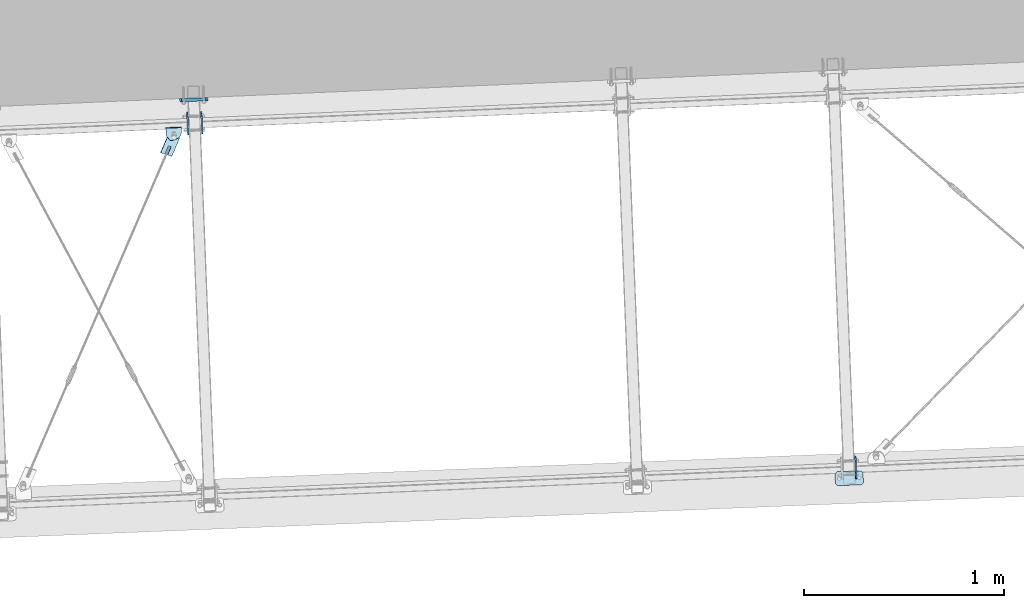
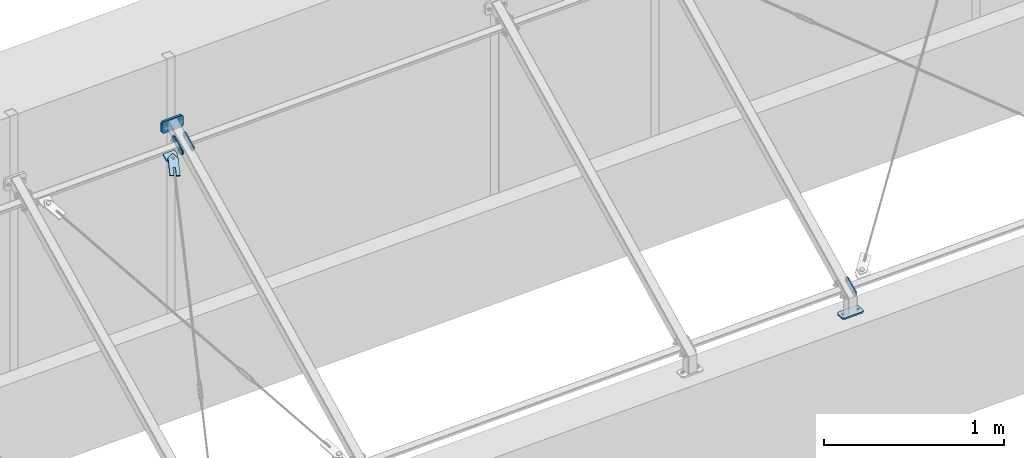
# One storey, part 62 of 288: 7 plates, 37 openings.
"""IFC2X3 building model written with IfcOpenShell, lengths in millimetres."""

from ifc_helpers import new_model, entity, si_unit, converted_unit, point, frame, frame_2d, origin, origin_with_axes, origin_2d_with_axis, place, context, project, spatial, polyline, circle_curve, line_curve, trimmed, segment, composite_curve, circle, outline, extrude, material, layer, layer_set, element, save


model = new_model("IFC2X3")

# Units and contexts
model_context = context("Model", 3, precision=1e-09, world=origin_with_axes())
ifc_project = project(units=[si_unit("LENGTHUNIT", "METRE", prefix="MILLI"), si_unit("AREAUNIT", "SQUARE_METRE"), si_unit("VOLUMEUNIT", "CUBIC_METRE"), converted_unit("PLANEANGLEUNIT", "DEGREE", entity("IfcPlaneAngleMeasure", 0.01745329), si_unit("PLANEANGLEUNIT", "RADIAN"), dimensions=[0, 0, 0, 0, 0, 0, 0])], contexts=[model_context])

# Site, building, storey
site_placement = place(None, origin_with_axes())
site = spatial("IfcSite", under=ifc_project, at=site_placement, Name="Remont ?wietlik?w nad MC w NCPP w Opolu", CompositionType="ELEMENT")
building_placement = place(site_placement, origin_with_axes())
building = spatial("IfcBuilding", under=site, at=building_placement, Name="Konstrukcja 1", CompositionType="ELEMENT")
storey_placement = place(building_placement, origin_with_axes())
storey = spatial("IfcBuildingStorey", under=building, at=storey_placement, Name="Default Storey", CompositionType="ELEMENT", Elevation=0.0)

# Plate, openings
ifc_material = material(Name="S235")
ifc_layer_1 = layer(ifc_material, 8.0)
ifc_layer_set_1 = layer_set([ifc_layer_1], Name="S235")
plate_1_placement = place(None, frame((6699.594263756, 13812.046518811, 92.097498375), z_axis=(-0.999102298, -0.042361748, 0.000284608), x_axis=(0.021561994, -0.502733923, 0.864172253)))
plate_1 = element("IfcPlate", 1, at=plate_1_placement, inside=storey, material=ifc_layer_set_1, Name="-", ObjectType="-", context=model_context, shape_type="SweptSolid", body=[
    extrude(outline(polyline([(0.0, 0.0), (40.0, 0.0), (40.0, 120.0), (0.0, 120.0), (0.0, 0.0)])), origin_with_axes(), (0.0, 0.0, 1.0), 8.0),
])
opening_1_placement = place(plate_1_placement, frame((0.0, 0.0, -0.01), z_axis=(0.0, 0.0, 1.0), x_axis=(1.0, 0.0, 0.0)))
element("IfcOpeningElement", 2, at=opening_1_placement, cuts=plate_1, ObjectType="Opening", context=model_context, shape_type="SweptSolid", body=[
    extrude(outline(composite_curve([segment(trimmed(line_curve((0.0, 0.0), (1.0, 0.0), 10.0), [point((0.0, 0.0))], [point((10.0, 0.0))], True, "CARTESIAN"), True, "CONTINUOUS"), segment(trimmed(circle_curve(frame_2d((10.0, 10.0), x_axis=(-1.0, 0.0)), 10.0), [point((10.0, 0.0))], [point((0.0, 10.0))], False, "CARTESIAN"), True, "CONTINUOUS"), segment(trimmed(line_curve((0.0, 10.0), (0.0, -1.0), 10.0), [point((0.0, 10.0))], [point((0.0, 0.0))], True, "CARTESIAN"), True, "CONTINUOUS")], self_intersect=False)), origin(), (0.0, 0.0, 1.0), 8.02),
])
opening_2_placement = place(plate_1_placement, frame((0.0, 0.0, -0.01), z_axis=(0.0, 0.0, 1.0), x_axis=(1.0, 0.0, 0.0)))
element("IfcOpeningElement", 3, at=opening_2_placement, cuts=plate_1, ObjectType="Opening", context=model_context, shape_type="SweptSolid", body=[
    extrude(outline(composite_curve([segment(trimmed(line_curve((40.0, 0.0), (0.0, 1.0), 10.0), [point((40.0, 0.0))], [point((40.0, 10.0))], True, "CARTESIAN"), True, "CONTINUOUS"), segment(trimmed(circle_curve(frame_2d((30.0, 10.0), x_axis=(-1.0, 0.0)), 10.0), [point((40.0, 10.0))], [point((30.0, 0.0))], False, "CARTESIAN"), True, "CONTINUOUS"), segment(trimmed(line_curve((30.0, 0.0), (1.0, 0.0), 10.0), [point((30.0, 0.0))], [point((40.0, 0.0))], True, "CARTESIAN"), True, "CONTINUOUS")], self_intersect=False)), origin(), (0.0, 0.0, 1.0), 8.02),
])
opening_3_placement = place(plate_1_placement, frame((0.0, 0.0, -0.01), z_axis=(0.0, 0.0, 1.0), x_axis=(1.0, 0.0, 0.0)))
element("IfcOpeningElement", 4, at=opening_3_placement, cuts=plate_1, ObjectType="Opening", context=model_context, shape_type="SweptSolid", body=[
    extrude(outline(composite_curve([segment(trimmed(line_curve((40.0, 120.0), (-1.0, 0.0), 10.0), [point((40.0, 120.0))], [point((30.0, 120.0))], True, "CARTESIAN"), True, "CONTINUOUS"), segment(trimmed(circle_curve(frame_2d((30.0, 110.0), x_axis=(-1.0, 0.0)), 10.0), [point((30.0, 120.0))], [point((40.0, 110.0))], False, "CARTESIAN"), True, "CONTINUOUS"), segment(trimmed(line_curve((40.0, 110.0), (0.0, 1.0), 10.0), [point((40.0, 110.0))], [point((40.0, 120.0))], True, "CARTESIAN"), True, "CONTINUOUS")], self_intersect=False)), origin(), (0.0, 0.0, 1.0), 8.02),
])
opening_4_placement = place(plate_1_placement, frame((0.0, 0.0, -0.01), z_axis=(0.0, 0.0, 1.0), x_axis=(1.0, 0.0, 0.0)))
element("IfcOpeningElement", 5, at=opening_4_placement, cuts=plate_1, ObjectType="Opening", context=model_context, shape_type="SweptSolid", body=[
    extrude(outline(composite_curve([segment(trimmed(line_curve((0.0, 120.0), (0.0, -1.0), 10.0), [point((0.0, 120.0))], [point((0.0, 110.0))], True, "CARTESIAN"), True, "CONTINUOUS"), segment(trimmed(circle_curve(frame_2d((10.0, 110.0), x_axis=(-1.0, 0.0)), 10.0), [point((0.0, 110.0))], [point((10.0, 120.0))], False, "CARTESIAN"), True, "CONTINUOUS"), segment(trimmed(line_curve((10.0, 120.0), (-1.0, 0.0), 10.0), [point((10.0, 120.0))], [point((0.0, 120.0))], True, "CARTESIAN"), True, "CONTINUOUS")], self_intersect=False)), origin(), (0.0, 0.0, 1.0), 8.02),
])
opening_5_placement = place(plate_1_placement, frame((12.999, 100.0, 8.5), z_axis=(0.0, 0.0, 1.0), x_axis=(1.0, 0.0, 0.0)))
element("IfcOpeningElement", 6, at=opening_5_placement, cuts=plate_1, ObjectType="Opening", context=model_context, shape_type="SweptSolid", body=[
    extrude(circle(Radius=7.001, at=frame_2d((7.001, 0.0), x_axis=(1.0, 0.0))), origin(), (0.0, 0.0, -1.0), 9.0),
])
opening_6_placement = place(plate_1_placement, frame((12.999, 20.0, 8.5), z_axis=(0.0, 0.0, 1.0), x_axis=(1.0, 0.0, 0.0)))
element("IfcOpeningElement", 7, at=opening_6_placement, cuts=plate_1, ObjectType="Opening", context=model_context, shape_type="SweptSolid", body=[
    extrude(circle(Radius=7.001, at=frame_2d((7.001, 0.0), x_axis=(1.0, 0.0))), origin(), (0.0, 0.0, -1.0), 9.0),
])

plate_2_placement = place(None, frame((3436.806448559, 15531.661191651, 1176.143390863), z_axis=(-0.999102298, -0.042361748, 0.000284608), x_axis=(0.021561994, -0.502733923, 0.864172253)))
plate_2 = element("IfcPlate", 8, at=plate_2_placement, inside=storey, material=ifc_layer_set_1, Name="-", ObjectType="-", context=model_context, shape_type="SweptSolid", body=[
    extrude(outline(polyline([(0.0, 0.0), (40.0, 0.0), (40.0, 120.0), (0.0, 120.0), (0.0, 0.0)])), origin_with_axes(), (0.0, 0.0, 1.0), 8.0),
])
opening_7_placement = place(plate_2_placement, frame((0.0, 0.0, -0.01), z_axis=(0.0, 0.0, 1.0), x_axis=(1.0, 0.0, 0.0)))
element("IfcOpeningElement", 9, at=opening_7_placement, cuts=plate_2, ObjectType="Opening", context=model_context, shape_type="SweptSolid", body=[
    extrude(outline(composite_curve([segment(trimmed(line_curve((0.0, 0.0), (1.0, 0.0), 10.0), [point((0.0, 0.0))], [point((10.0, 0.0))], True, "CARTESIAN"), True, "CONTINUOUS"), segment(trimmed(circle_curve(frame_2d((10.0, 10.0), x_axis=(-1.0, 0.0)), 10.0), [point((10.0, 0.0))], [point((0.0, 10.0))], False, "CARTESIAN"), True, "CONTINUOUS"), segment(trimmed(line_curve((0.0, 10.0), (0.0, -1.0), 10.0), [point((0.0, 10.0))], [point((0.0, 0.0))], True, "CARTESIAN"), True, "CONTINUOUS")], self_intersect=False)), origin(), (0.0, 0.0, 1.0), 8.02),
])
opening_8_placement = place(plate_2_placement, frame((0.0, 0.0, -0.01), z_axis=(0.0, 0.0, 1.0), x_axis=(1.0, 0.0, 0.0)))
element("IfcOpeningElement", 10, at=opening_8_placement, cuts=plate_2, ObjectType="Opening", context=model_context, shape_type="SweptSolid", body=[
    extrude(outline(composite_curve([segment(trimmed(line_curve((40.0, 0.0), (0.0, 1.0), 10.0), [point((40.0, 0.0))], [point((40.0, 10.0))], True, "CARTESIAN"), True, "CONTINUOUS"), segment(trimmed(circle_curve(frame_2d((30.0, 10.0), x_axis=(-1.0, 0.0)), 10.0), [point((40.0, 10.0))], [point((30.0, 0.0))], False, "CARTESIAN"), True, "CONTINUOUS"), segment(trimmed(line_curve((30.0, 0.0), (1.0, 0.0), 10.0), [point((30.0, 0.0))], [point((40.0, 0.0))], True, "CARTESIAN"), True, "CONTINUOUS")], self_intersect=False)), origin(), (0.0, 0.0, 1.0), 8.02),
])
opening_9_placement = place(plate_2_placement, frame((0.0, 0.0, -0.01), z_axis=(0.0, 0.0, 1.0), x_axis=(1.0, 0.0, 0.0)))
element("IfcOpeningElement", 11, at=opening_9_placement, cuts=plate_2, ObjectType="Opening", context=model_context, shape_type="SweptSolid", body=[
    extrude(outline(composite_curve([segment(trimmed(line_curve((40.0, 120.0), (-1.0, 0.0), 10.0), [point((40.0, 120.0))], [point((30.0, 120.0))], True, "CARTESIAN"), True, "CONTINUOUS"), segment(trimmed(circle_curve(frame_2d((30.0, 110.0), x_axis=(-1.0, 0.0)), 10.0), [point((30.0, 120.0))], [point((40.0, 110.0))], False, "CARTESIAN"), True, "CONTINUOUS"), segment(trimmed(line_curve((40.0, 110.0), (0.0, 1.0), 10.0), [point((40.0, 110.0))], [point((40.0, 120.0))], True, "CARTESIAN"), True, "CONTINUOUS")], self_intersect=False)), origin(), (0.0, 0.0, 1.0), 8.02),
])
opening_10_placement = place(plate_2_placement, frame((0.0, 0.0, -0.01), z_axis=(0.0, 0.0, 1.0), x_axis=(1.0, 0.0, 0.0)))
element("IfcOpeningElement", 12, at=opening_10_placement, cuts=plate_2, ObjectType="Opening", context=model_context, shape_type="SweptSolid", body=[
    extrude(outline(composite_curve([segment(trimmed(line_curve((0.0, 120.0), (0.0, -1.0), 10.0), [point((0.0, 120.0))], [point((0.0, 110.0))], True, "CARTESIAN"), True, "CONTINUOUS"), segment(trimmed(circle_curve(frame_2d((10.0, 110.0), x_axis=(-1.0, 0.0)), 10.0), [point((0.0, 110.0))], [point((10.0, 120.0))], False, "CARTESIAN"), True, "CONTINUOUS"), segment(trimmed(line_curve((10.0, 120.0), (-1.0, 0.0), 10.0), [point((10.0, 120.0))], [point((0.0, 120.0))], True, "CARTESIAN"), True, "CONTINUOUS")], self_intersect=False)), origin(), (0.0, 0.0, 1.0), 8.02),
])
opening_11_placement = place(plate_2_placement, frame((12.999, 100.0, 8.5), z_axis=(0.0, 0.0, 1.0), x_axis=(1.0, 0.0, 0.0)))
element("IfcOpeningElement", 13, at=opening_11_placement, cuts=plate_2, ObjectType="Opening", context=model_context, shape_type="SweptSolid", body=[
    extrude(circle(Radius=7.001, at=frame_2d((7.001, 0.0), x_axis=(1.0, 0.0))), origin(), (0.0, 0.0, -1.0), 9.0),
])
opening_12_placement = place(plate_2_placement, frame((12.999, 20.0, 8.5), z_axis=(0.0, 0.0, 1.0), x_axis=(1.0, 0.0, 0.0)))
element("IfcOpeningElement", 14, at=opening_12_placement, cuts=plate_2, ObjectType="Opening", context=model_context, shape_type="SweptSolid", body=[
    extrude(circle(Radius=7.001, at=frame_2d((7.001, 0.0), x_axis=(1.0, 0.0))), origin(), (0.0, 0.0, -1.0), 9.0),
])

plate_3_placement = place(None, frame((3366.869287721, 15528.695869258, 1176.163313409), z_axis=(-0.999102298, -0.042361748, 0.000284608), x_axis=(0.021561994, -0.502733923, 0.864172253)))
plate_3 = element("IfcPlate", 15, at=plate_3_placement, inside=storey, material=ifc_layer_set_1, Name="-", ObjectType="-", context=model_context, shape_type="SweptSolid", body=[
    extrude(outline(polyline([(0.0, 0.0), (40.0, 0.0), (40.0, 120.0), (0.0, 120.0), (0.0, 0.0)])), origin_with_axes(), (0.0, 0.0, 1.0), 8.0),
])
opening_13_placement = place(plate_3_placement, frame((0.0, 0.0, -0.01), z_axis=(0.0, 0.0, 1.0), x_axis=(1.0, 0.0, 0.0)))
element("IfcOpeningElement", 16, at=opening_13_placement, cuts=plate_3, ObjectType="Opening", context=model_context, shape_type="SweptSolid", body=[
    extrude(outline(composite_curve([segment(trimmed(line_curve((40.0, 0.0), (0.0, 1.0), 10.0), [point((40.0, 0.0))], [point((40.0, 10.0))], True, "CARTESIAN"), True, "CONTINUOUS"), segment(trimmed(circle_curve(frame_2d((30.0, 10.0), x_axis=(-1.0, 0.0)), 10.0), [point((40.0, 10.0))], [point((30.0, 0.0))], False, "CARTESIAN"), True, "CONTINUOUS"), segment(trimmed(line_curve((30.0, 0.0), (1.0, 0.0), 10.0), [point((30.0, 0.0))], [point((40.0, 0.0))], True, "CARTESIAN"), True, "CONTINUOUS")], self_intersect=False)), origin(), (0.0, 0.0, 1.0), 8.02),
])
opening_14_placement = place(plate_3_placement, frame((0.0, 0.0, -0.01), z_axis=(0.0, 0.0, 1.0), x_axis=(1.0, 0.0, 0.0)))
element("IfcOpeningElement", 17, at=opening_14_placement, cuts=plate_3, ObjectType="Opening", context=model_context, shape_type="SweptSolid", body=[
    extrude(outline(composite_curve([segment(trimmed(line_curve((0.0, 0.0), (1.0, 0.0), 10.0), [point((0.0, 0.0))], [point((10.0, 0.0))], True, "CARTESIAN"), True, "CONTINUOUS"), segment(trimmed(circle_curve(frame_2d((10.0, 10.0), x_axis=(-1.0, 0.0)), 10.0), [point((10.0, 0.0))], [point((0.0, 10.0))], False, "CARTESIAN"), True, "CONTINUOUS"), segment(trimmed(line_curve((0.0, 10.0), (0.0, -1.0), 10.0), [point((0.0, 10.0))], [point((0.0, 0.0))], True, "CARTESIAN"), True, "CONTINUOUS")], self_intersect=False)), origin(), (0.0, 0.0, 1.0), 8.02),
])
opening_15_placement = place(plate_3_placement, frame((0.0, 0.0, -0.01), z_axis=(0.0, 0.0, 1.0), x_axis=(1.0, 0.0, 0.0)))
element("IfcOpeningElement", 18, at=opening_15_placement, cuts=plate_3, ObjectType="Opening", context=model_context, shape_type="SweptSolid", body=[
    extrude(outline(composite_curve([segment(trimmed(line_curve((40.0, 120.0), (-1.0, 0.0), 10.0), [point((40.0, 120.0))], [point((30.0, 120.0))], True, "CARTESIAN"), True, "CONTINUOUS"), segment(trimmed(circle_curve(frame_2d((30.0, 110.0), x_axis=(-1.0, 0.0)), 10.0), [point((30.0, 120.0))], [point((40.0, 110.0))], False, "CARTESIAN"), True, "CONTINUOUS"), segment(trimmed(line_curve((40.0, 110.0), (0.0, 1.0), 10.0), [point((40.0, 110.0))], [point((40.0, 120.0))], True, "CARTESIAN"), True, "CONTINUOUS")], self_intersect=False)), origin(), (0.0, 0.0, 1.0), 8.02),
])
opening_16_placement = place(plate_3_placement, frame((0.0, 0.0, -0.01), z_axis=(0.0, 0.0, 1.0), x_axis=(1.0, 0.0, 0.0)))
element("IfcOpeningElement", 19, at=opening_16_placement, cuts=plate_3, ObjectType="Opening", context=model_context, shape_type="SweptSolid", body=[
    extrude(outline(composite_curve([segment(trimmed(line_curve((0.0, 120.0), (0.0, -1.0), 10.0), [point((0.0, 120.0))], [point((0.0, 110.0))], True, "CARTESIAN"), True, "CONTINUOUS"), segment(trimmed(circle_curve(frame_2d((10.0, 110.0), x_axis=(-1.0, 0.0)), 10.0), [point((0.0, 110.0))], [point((10.0, 120.0))], False, "CARTESIAN"), True, "CONTINUOUS"), segment(trimmed(line_curve((10.0, 120.0), (-1.0, 0.0), 10.0), [point((10.0, 120.0))], [point((0.0, 120.0))], True, "CARTESIAN"), True, "CONTINUOUS")], self_intersect=False)), origin(), (0.0, 0.0, 1.0), 8.02),
])
opening_17_placement = place(plate_3_placement, frame((12.999, 100.0, 8.5), z_axis=(0.0, 0.0, 1.0), x_axis=(1.0, 0.0, 0.0)))
element("IfcOpeningElement", 20, at=opening_17_placement, cuts=plate_3, ObjectType="Opening", context=model_context, shape_type="SweptSolid", body=[
    extrude(circle(Radius=7.001, at=frame_2d((7.001, 0.0), x_axis=(1.0, 0.0))), origin(), (0.0, 0.0, -1.0), 9.0),
])
opening_18_placement = place(plate_3_placement, frame((12.999, 20.0, 8.5), z_axis=(0.0, 0.0, 1.0), x_axis=(1.0, 0.0, 0.0)))
element("IfcOpeningElement", 21, at=opening_18_placement, cuts=plate_3, ObjectType="Opening", context=model_context, shape_type="SweptSolid", body=[
    extrude(circle(Radius=7.001, at=frame_2d((7.001, 0.0), x_axis=(1.0, 0.0))), origin(), (0.0, 0.0, -1.0), 9.0),
])

ifc_layer_2 = layer(ifc_material, 10.0)
ifc_layer_set_2 = layer_set([ifc_layer_2], Name="S235")
plate_4_placement = place(None, frame((6729.121885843, 13838.195794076, 10.000000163), z_axis=(0.0, 0.0, -1.0), x_axis=(0.039392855, -0.9992238, 0.0)))
plate_4 = element("IfcPlate", 22, at=plate_4_placement, inside=storey, material=ifc_layer_set_2, Name="Baseplate", ObjectType="Baseplate", context=model_context, shape_type="SweptSolid", body=[
    extrude(outline(polyline([(0.0, 0.0), (70.0, 0.0), (70.0, 140.0), (0.0, 140.0), (0.0, 0.0)])), origin_with_axes(), (0.0, 0.0, 1.0), 10.0),
])
opening_19_placement = place(plate_4_placement, frame((0.0, 0.0, -0.01), z_axis=(0.0, 0.0, 1.0), x_axis=(1.0, 0.0, 0.0)))
element("IfcOpeningElement", 23, at=opening_19_placement, cuts=plate_4, ObjectType="Opening", context=model_context, shape_type="SweptSolid", body=[
    extrude(outline(composite_curve([segment(trimmed(line_curve((0.0, 140.0), (0.0, -1.0), 10.0), [point((0.0, 140.0))], [point((0.0, 130.0))], True, "CARTESIAN"), True, "CONTINUOUS"), segment(trimmed(circle_curve(frame_2d((10.0, 130.0), x_axis=(-1.0, 0.0)), 10.0), [point((0.0, 130.0))], [point((10.0, 140.0))], False, "CARTESIAN"), True, "CONTINUOUS"), segment(trimmed(line_curve((10.0, 140.0), (-1.0, 0.0), 10.0), [point((10.0, 140.0))], [point((0.0, 140.0))], True, "CARTESIAN"), True, "CONTINUOUS")], self_intersect=False)), origin(), (0.0, 0.0, 1.0), 10.02),
])
opening_20_placement = place(plate_4_placement, frame((0.0, 0.0, -0.01), z_axis=(0.0, 0.0, 1.0), x_axis=(1.0, 0.0, 0.0)))
element("IfcOpeningElement", 24, at=opening_20_placement, cuts=plate_4, ObjectType="Opening", context=model_context, shape_type="SweptSolid", body=[
    extrude(outline(composite_curve([segment(trimmed(line_curve((70.0, 140.0), (-1.0, 0.0), 10.0), [point((70.0, 140.0))], [point((60.0, 140.0))], True, "CARTESIAN"), True, "CONTINUOUS"), segment(trimmed(circle_curve(frame_2d((60.0, 130.0), x_axis=(-1.0, 0.0)), 10.0), [point((60.0, 140.0))], [point((70.0, 130.0))], False, "CARTESIAN"), True, "CONTINUOUS"), segment(trimmed(line_curve((70.0, 130.0), (0.0, 1.0), 10.0), [point((70.0, 130.0))], [point((70.0, 140.0))], True, "CARTESIAN"), True, "CONTINUOUS")], self_intersect=False)), origin(), (0.0, 0.0, 1.0), 10.02),
])
opening_21_placement = place(plate_4_placement, frame((0.0, 0.0, -0.01), z_axis=(0.0, 0.0, 1.0), x_axis=(1.0, 0.0, 0.0)))
element("IfcOpeningElement", 25, at=opening_21_placement, cuts=plate_4, ObjectType="Opening", context=model_context, shape_type="SweptSolid", body=[
    extrude(outline(composite_curve([segment(trimmed(line_curve((0.0, 0.0), (1.0, 0.0), 10.0), [point((0.0, 0.0))], [point((10.0, 0.0))], True, "CARTESIAN"), True, "CONTINUOUS"), segment(trimmed(circle_curve(frame_2d((10.0, 10.0), x_axis=(-1.0, 0.0)), 10.0), [point((10.0, 0.0))], [point((0.0, 10.0))], False, "CARTESIAN"), True, "CONTINUOUS"), segment(trimmed(line_curve((0.0, 10.0), (0.0, -1.0), 10.0), [point((0.0, 10.0))], [point((0.0, 0.0))], True, "CARTESIAN"), True, "CONTINUOUS")], self_intersect=False)), origin(), (0.0, 0.0, 1.0), 10.02),
])
opening_22_placement = place(plate_4_placement, frame((0.0, 0.0, -0.01), z_axis=(0.0, 0.0, 1.0), x_axis=(1.0, 0.0, 0.0)))
element("IfcOpeningElement", 26, at=opening_22_placement, cuts=plate_4, ObjectType="Opening", context=model_context, shape_type="SweptSolid", body=[
    extrude(outline(composite_curve([segment(trimmed(line_curve((70.0, 0.0), (0.0, 1.0), 10.0), [point((70.0, 0.0))], [point((70.0, 10.0))], True, "CARTESIAN"), True, "CONTINUOUS"), segment(trimmed(circle_curve(frame_2d((60.0, 10.0), x_axis=(-1.0, 0.0)), 10.0), [point((70.0, 10.0))], [point((60.0, 0.0))], False, "CARTESIAN"), True, "CONTINUOUS"), segment(trimmed(line_curve((60.0, 0.0), (1.0, 0.0), 10.0), [point((60.0, 0.0))], [point((70.0, 0.0))], True, "CARTESIAN"), True, "CONTINUOUS")], self_intersect=False)), origin(), (0.0, 0.0, 1.0), 10.02),
])
opening_23_placement = place(plate_4_placement, frame((35.0, 20.0, 10.5), z_axis=(0.0, 0.0, -1.0), x_axis=(1.0, 0.0, 0.0)))
element("IfcOpeningElement", 27, at=opening_23_placement, cuts=plate_4, ObjectType="Opening", context=model_context, shape_type="SweptSolid", body=[
    extrude(circle(Radius=6.001, at=origin_2d_with_axis()), origin(), (0.0, 0.0, 1.0), 11.0),
])
opening_24_placement = place(plate_4_placement, frame((35.0, 120.0, 10.5), z_axis=(0.0, 0.0, -1.0), x_axis=(1.0, 0.0, 0.0)))
element("IfcOpeningElement", 28, at=opening_24_placement, cuts=plate_4, ObjectType="Opening", context=model_context, shape_type="SweptSolid", body=[
    extrude(circle(Radius=6.001, at=origin_2d_with_axis()), origin(), (0.0, 0.0, 1.0), 11.0),
])

ifc_layer_3 = layer(ifc_material, 16.0)
ifc_layer_set_3 = layer_set([ifc_layer_3], Name="S235")
plate_5_placement = place(None, frame((3461.388178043, 15683.042077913, 1327.0470985), z_axis=(-0.039393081, 0.999223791, 0.0), x_axis=(0.0, 0.0, -1.0)))
plate_5 = element("IfcPlate", 29, at=plate_5_placement, inside=storey, material=ifc_layer_set_3, Name="Baseplate", ObjectType="Baseplate", context=model_context, shape_type="SweptSolid", body=[
    extrude(outline(polyline([(0.0, 0.0), (79.481321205, 0.0), (79.481321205, 140.0), (0.0, 140.0), (0.0, 0.0)])), origin_with_axes(), (0.0, 0.0, 1.0), 16.0),
])
opening_25_placement = place(plate_5_placement, frame((0.0, 0.0, -0.01), z_axis=(0.0, 0.0, 1.0), x_axis=(1.0, 0.0, 0.0)))
element("IfcOpeningElement", 30, at=opening_25_placement, cuts=plate_5, ObjectType="Opening", context=model_context, shape_type="SweptSolid", body=[
    extrude(outline(composite_curve([segment(trimmed(line_curve((79.481321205, 0.0), (0.0, 1.0), 10.0), [point((79.481321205, 0.0))], [point((79.481321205, 10.0))], True, "CARTESIAN"), True, "CONTINUOUS"), segment(trimmed(circle_curve(frame_2d((69.481321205, 10.0), x_axis=(-1.0, 0.0)), 10.0), [point((79.481321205, 10.0))], [point((69.481321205, 0.0))], False, "CARTESIAN"), True, "CONTINUOUS"), segment(trimmed(line_curve((69.481321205, 0.0), (1.0, 0.0), 10.0), [point((69.481321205, 0.0))], [point((79.481321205, 0.0))], True, "CARTESIAN"), True, "CONTINUOUS")], self_intersect=False)), origin(), (0.0, 0.0, 1.0), 16.02),
])
opening_26_placement = place(plate_5_placement, frame((0.0, 0.0, -0.01), z_axis=(0.0, 0.0, 1.0), x_axis=(1.0, 0.0, 0.0)))
element("IfcOpeningElement", 31, at=opening_26_placement, cuts=plate_5, ObjectType="Opening", context=model_context, shape_type="SweptSolid", body=[
    extrude(outline(composite_curve([segment(trimmed(line_curve((0.0, 0.0), (1.0, 0.0), 10.0), [point((0.0, 0.0))], [point((10.0, 0.0))], True, "CARTESIAN"), True, "CONTINUOUS"), segment(trimmed(circle_curve(frame_2d((10.0, 10.0), x_axis=(-1.0, 0.0)), 10.0), [point((10.0, 0.0))], [point((0.0, 10.0))], False, "CARTESIAN"), True, "CONTINUOUS"), segment(trimmed(line_curve((0.0, 10.0), (0.0, -1.0), 10.0), [point((0.0, 10.0))], [point((0.0, 0.0))], True, "CARTESIAN"), True, "CONTINUOUS")], self_intersect=False)), origin(), (0.0, 0.0, 1.0), 16.02),
])
opening_27_placement = place(plate_5_placement, frame((0.0, 0.0, -0.01), z_axis=(0.0, 0.0, 1.0), x_axis=(1.0, 0.0, 0.0)))
element("IfcOpeningElement", 32, at=opening_27_placement, cuts=plate_5, ObjectType="Opening", context=model_context, shape_type="SweptSolid", body=[
    extrude(outline(composite_curve([segment(trimmed(line_curve((0.0, 140.0), (0.0, -1.0), 10.0), [point((0.0, 140.0))], [point((0.0, 130.0))], True, "CARTESIAN"), True, "CONTINUOUS"), segment(trimmed(circle_curve(frame_2d((10.0, 130.0), x_axis=(-1.0, 0.0)), 10.0), [point((0.0, 130.0))], [point((10.0, 140.0))], False, "CARTESIAN"), True, "CONTINUOUS"), segment(trimmed(line_curve((10.0, 140.0), (-1.0, 0.0), 10.0), [point((10.0, 140.0))], [point((0.0, 140.0))], True, "CARTESIAN"), True, "CONTINUOUS")], self_intersect=False)), origin(), (0.0, 0.0, 1.0), 16.02),
])
opening_28_placement = place(plate_5_placement, frame((0.0, 0.0, -0.01), z_axis=(0.0, 0.0, 1.0), x_axis=(1.0, 0.0, 0.0)))
element("IfcOpeningElement", 33, at=opening_28_placement, cuts=plate_5, ObjectType="Opening", context=model_context, shape_type="SweptSolid", body=[
    extrude(outline(composite_curve([segment(trimmed(line_curve((79.481321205, 140.0), (-1.0, 0.0), 10.0), [point((79.481321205, 140.0))], [point((69.481321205, 140.0))], True, "CARTESIAN"), True, "CONTINUOUS"), segment(trimmed(circle_curve(frame_2d((69.481321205, 130.0), x_axis=(-1.0, 0.0)), 10.0), [point((69.481321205, 140.0))], [point((79.481321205, 130.0))], False, "CARTESIAN"), True, "CONTINUOUS"), segment(trimmed(line_curve((79.481321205, 130.0), (0.0, 1.0), 10.0), [point((79.481321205, 130.0))], [point((79.481321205, 140.0))], True, "CARTESIAN"), True, "CONTINUOUS")], self_intersect=False)), origin(), (0.0, 0.0, 1.0), 16.02),
])
opening_29_placement = place(plate_5_placement, frame((39.740660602, 20.0, 16.5), z_axis=(0.0, 0.0, -1.0), x_axis=(1.0, 0.0, 0.0)))
element("IfcOpeningElement", 34, at=opening_29_placement, cuts=plate_5, ObjectType="Opening", context=model_context, shape_type="SweptSolid", body=[
    extrude(circle(Radius=6.001, at=origin_2d_with_axis()), origin(), (0.0, 0.0, 1.0), 17.0),
])
opening_30_placement = place(plate_5_placement, frame((39.740660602, 120.0, 16.5), z_axis=(0.0, 0.0, -1.0), x_axis=(1.0, 0.0, 0.0)))
element("IfcOpeningElement", 35, at=opening_30_placement, cuts=plate_5, ObjectType="Opening", context=model_context, shape_type="SweptSolid", body=[
    extrude(circle(Radius=6.001, at=origin_2d_with_axis()), origin(), (0.0, 0.0, 1.0), 17.0),
])

plate_6_placement = place(None, frame((3281.939345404, 15405.969503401, 1143.72843626), z_axis=(-0.021594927, 0.503513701, -0.863717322), x_axis=(-0.936472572, 0.292319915, 0.19382515)))
plate_6 = element("IfcPlate", 36, at=plate_6_placement, inside=storey, material=ifc_layer_set_1, Name="Tab_Plate#2", ObjectType="Tab_Plate#2", context=model_context, shape_type="SweptSolid", body=[
    extrude(outline(polyline([(0.0, 0.0), (60.0, 0.0), (60.0, 140.0), (0.0, 140.0), (0.0, 0.0)])), origin_with_axes(), (0.0, 0.0, 1.0), 8.0),
])
opening_31_placement = place(plate_6_placement, frame((0.0, 0.0, -0.01), z_axis=(0.0, 0.0, 1.0), x_axis=(1.0, 0.0, 0.0)))
element("IfcOpeningElement", 37, at=opening_31_placement, cuts=plate_6, ObjectType="Opening", context=model_context, shape_type="SweptSolid", body=[
    extrude(outline(composite_curve([segment(trimmed(line_curve((60.0, 140.0), (-1.0, 0.0), 30.0), [point((60.0, 140.0))], [point((30.0, 140.0))], True, "CARTESIAN"), True, "CONTINUOUS"), segment(trimmed(circle_curve(frame_2d((30.0, 110.0), x_axis=(-1.0, 0.0)), 30.0), [point((30.0, 140.0))], [point((60.0, 110.0))], False, "CARTESIAN"), True, "CONTINUOUS"), segment(trimmed(line_curve((60.0, 110.0), (0.0, 1.0), 30.0), [point((60.0, 110.0))], [point((60.0, 140.0))], True, "CARTESIAN"), True, "CONTINUOUS")], self_intersect=False)), origin(), (0.0, 0.0, 1.0), 8.02),
])
opening_32_placement = place(plate_6_placement, frame((0.0, 0.0, -0.01), z_axis=(0.0, 0.0, 1.0), x_axis=(1.0, 0.0, 0.0)))
element("IfcOpeningElement", 38, at=opening_32_placement, cuts=plate_6, ObjectType="Opening", context=model_context, shape_type="SweptSolid", body=[
    extrude(outline(composite_curve([segment(trimmed(line_curve((0.0, 140.0), (0.0, -1.0), 30.0), [point((0.0, 140.0))], [point((0.0, 110.0))], True, "CARTESIAN"), True, "CONTINUOUS"), segment(trimmed(circle_curve(frame_2d((30.0, 110.0), x_axis=(-1.0, 0.0)), 30.0), [point((0.0, 110.0))], [point((30.0, 140.0))], False, "CARTESIAN"), True, "CONTINUOUS"), segment(trimmed(line_curve((30.0, 140.0), (-1.0, 0.0), 30.0), [point((30.0, 140.0))], [point((0.0, 140.0))], True, "CARTESIAN"), True, "CONTINUOUS")], self_intersect=False)), origin(), (0.0, 0.0, 1.0), 8.02),
])
opening_33_placement = place(plate_6_placement, frame((0.0, 0.0, 8.1), z_axis=(0.0, 0.0, -1.0), x_axis=(-0.923086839, 0.384591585, 0.0)))
element("IfcOpeningElement", 39, at=opening_33_placement, cuts=plate_6, ObjectType="Opening", context=model_context, shape_type="SweptSolid", body=[
    extrude(outline(polyline([(-1.61551879, 55.923573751), (-14.540580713, 61.308625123), (-34.15552073, 14.229350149), (-21.230458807, 8.844298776), (-1.61551879, 55.923573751)])), origin(), (0.0, 0.0, 1.0), 8.2),
])
opening_34_placement = place(plate_6_placement, frame((30.0, 110.0, 8.5), z_axis=(0.0, 0.0, -1.0), x_axis=(0.0, -1.0, 0.0)))
element("IfcOpeningElement", 40, at=opening_34_placement, cuts=plate_6, ObjectType="Opening", context=model_context, shape_type="SweptSolid", body=[
    extrude(circle(Radius=9.001, at=origin_2d_with_axis()), origin(), (0.0, 0.0, 1.0), 9.0),
])

plate_7_placement = place(None, frame((3253.41150361, 15496.607575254, 1178.755599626), z_axis=(0.021594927, -0.503513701, 0.863717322), x_axis=(0.936472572, -0.292319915, -0.19382515)))
plate_7 = element("IfcPlate", 41, at=plate_7_placement, inside=storey, material=ifc_layer_set_1, Name="Gusset#2", ObjectType="Gusset#2", context=model_context, shape_type="SweptSolid", body=[
    extrude(outline(polyline([(0.0, 0.0), (60.0, 0.0), (60.0, 60.0), (48.512657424, 87.615542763), (-23.913558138, 57.488133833), (0.0, 0.0)])), origin_with_axes(), (0.0, 0.0, 1.0), 8.0),
])
opening_35_placement = place(plate_7_placement, frame((30.0, 30.0, -0.5), z_axis=(0.0, 0.0, 1.0), x_axis=(0.0, -1.0, 0.0)))
element("IfcOpeningElement", 42, at=opening_35_placement, cuts=plate_7, ObjectType="Opening", context=model_context, shape_type="SweptSolid", body=[
    extrude(circle(Radius=9.001, at=origin_2d_with_axis()), origin(), (0.0, 0.0, 1.0), 9.0),
])
opening_36_placement = place(plate_7_placement, frame((0.0, 0.0, -0.01), z_axis=(0.0, 0.0, 1.0), x_axis=(1.0, 0.0, 0.0)))
element("IfcOpeningElement", 43, at=opening_36_placement, cuts=plate_7, ObjectType="Opening", context=model_context, shape_type="SweptSolid", body=[
    extrude(outline(composite_curve([segment(trimmed(line_curve((0.0, 0.0), (1.0, 0.0), 20.01279684), [point((0.0, 0.0))], [point((20.01279684, 0.0))], True, "CARTESIAN"), True, "CONTINUOUS"), segment(trimmed(circle_curve(frame_2d((20.01279684, 30.0), x_axis=(-1.0, 0.0)), 30.0), [point((20.01279684, 0.0))], [point((-7.686319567, 18.477892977))], False, "CARTESIAN"), True, "CONTINUOUS"), segment(trimmed(line_curve((-7.686319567, 18.477892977), (0.384070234, -0.92330388), 20.01279684), [point((-7.686319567, 18.477892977))], [point((0.0, 0.0))], True, "CARTESIAN"), True, "CONTINUOUS")], self_intersect=False)), origin(), (0.0, 0.0, 1.0), 8.02),
])
opening_37_placement = place(plate_7_placement, frame((0.0, 0.0, -0.01), z_axis=(0.0, 0.0, 1.0), x_axis=(1.0, 0.0, 0.0)))
element("IfcOpeningElement", 44, at=opening_37_placement, cuts=plate_7, ObjectType="Opening", context=model_context, shape_type="SweptSolid", body=[
    extrude(outline(composite_curve([segment(trimmed(line_curve((60.0, 0.0), (0.0, 1.0), 30.0), [point((60.0, 0.0))], [point((60.0, 30.0))], True, "CARTESIAN"), True, "CONTINUOUS"), segment(trimmed(circle_curve(frame_2d((30.0, 30.0), x_axis=(-1.0, 0.0)), 30.0), [point((60.0, 30.0))], [point((30.0, 0.0))], False, "CARTESIAN"), True, "CONTINUOUS"), segment(trimmed(line_curve((30.0, 0.0), (1.0, 0.0), 30.0), [point((30.0, 0.0))], [point((60.0, 0.0))], True, "CARTESIAN"), True, "CONTINUOUS")], self_intersect=False)), origin(), (0.0, 0.0, 1.0), 8.02),
])

save(model, "model.ifc")
